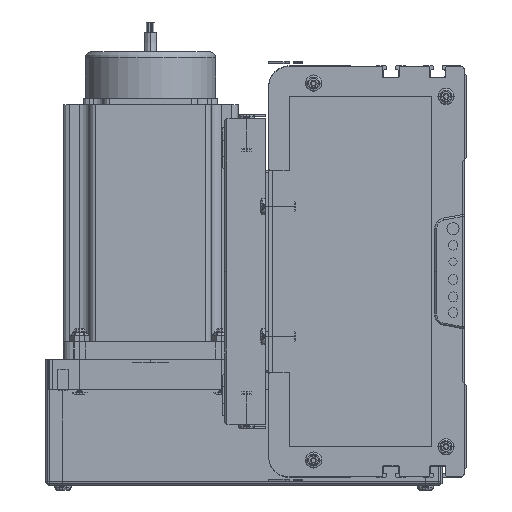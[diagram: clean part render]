
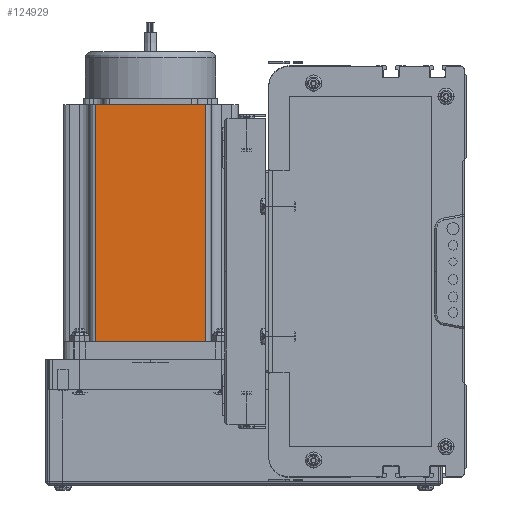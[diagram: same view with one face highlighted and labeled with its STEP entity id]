
A CAD part, left-side view. The second image highlights one B-rep face of the part: STEP entity #124929.
In plain terms, the highlighted planar face has unit normal (-1, 0, 0) as drawn and (0, -1, 0) by its records, which use the part's own axes.
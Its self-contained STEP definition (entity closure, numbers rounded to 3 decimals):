
#104337 = CARTESIAN_POINT ( 'NONE',  ( 69.74, 0., 0. ) ) ;
#104902 = DIRECTION ( 'NONE',  ( 1., 0., 0. ) ) ;
#105538 = VECTOR ( 'NONE', #104902, 1000. ) ;
#105539 = CARTESIAN_POINT ( 'NONE',  ( 0., 0., 116.5 ) ) ;
#105540 = LINE ( 'NONE', #105539, #105538 ) ;
#107306 = DIRECTION ( 'NONE',  ( 0., 0., 1. ) ) ;
#107307 = VECTOR ( 'NONE', #107306, 1000. ) ;
#107320 = AXIS2_PLACEMENT_3D ( 'NONE', #107336, #107335, #107365 ) ;
#107335 = DIRECTION ( 'NONE',  ( 0., 1., 0. ) ) ;
#107336 = CARTESIAN_POINT ( 'NONE',  ( 0., 0., 116.5 ) ) ;
#107338 = CARTESIAN_POINT ( 'NONE',  ( 16.16, 0., 116.5 ) ) ;
#107344 = DIRECTION ( 'NONE',  ( 1., 0., 0. ) ) ;
#107345 = VECTOR ( 'NONE', #107344, 1000. ) ;
#107357 = PLANE ( 'NONE',  #107320 ) ;
#107358 = LINE ( 'NONE', #107366, #107307 ) ;
#107360 = LINE ( 'NONE', #107364, #107345 ) ;
#107362 = FACE_OUTER_BOUND ( 'NONE', #122817, .T. ) ;
#107364 = CARTESIAN_POINT ( 'NONE',  ( 0., 0., 0. ) ) ;
#107365 = DIRECTION ( 'NONE',  ( 0., 0., 1. ) ) ;
#107366 = CARTESIAN_POINT ( 'NONE',  ( 69.74, 0., 116.5 ) ) ;
#122817 = EDGE_LOOP ( 'NONE', ( #125175, #125048, #124914, #124863 ) ) ;
#124863 = ORIENTED_EDGE ( 'NONE', *, *, #124882, .T. ) ;
#124882 = EDGE_CURVE ( 'NONE', #124931, #124922, #136643, .T. ) ;
#124914 = ORIENTED_EDGE ( 'NONE', *, *, #125049, .F. ) ;
#124922 = VERTEX_POINT ( 'NONE', #154770 ) ;
#124927 = VERTEX_POINT ( 'NONE', #153856 ) ;
#124929 = ADVANCED_FACE ( 'NONE', ( #107362 ), #107357, .F. ) ;
#124931 = VERTEX_POINT ( 'NONE', #107338 ) ;
#124933 = EDGE_CURVE ( 'NONE', #124958, #124927, #107358, .T. ) ;
#124937 = EDGE_CURVE ( 'NONE', #124922, #124958, #107360, .T. ) ;
#124958 = VERTEX_POINT ( 'NONE', #104337 ) ;
#125048 = ORIENTED_EDGE ( 'NONE', *, *, #124933, .T. ) ;
#125049 = EDGE_CURVE ( 'NONE', #124931, #124927, #105540, .T. ) ;
#125175 = ORIENTED_EDGE ( 'NONE', *, *, #124937, .T. ) ;
#136555 = VECTOR ( 'NONE', #136810, 1000. ) ;
#136615 = CARTESIAN_POINT ( 'NONE',  ( 16.16, 0., 116.5 ) ) ;
#136643 = LINE ( 'NONE', #136615, #136555 ) ;
#136810 = DIRECTION ( 'NONE',  ( 0., 0., -1. ) ) ;
#153856 = CARTESIAN_POINT ( 'NONE',  ( 69.74, 0., 116.5 ) ) ;
#154770 = CARTESIAN_POINT ( 'NONE',  ( 16.16, 0., 0. ) ) ;
